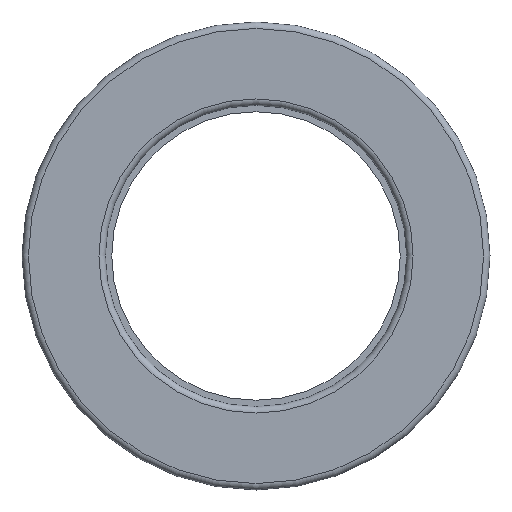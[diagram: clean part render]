
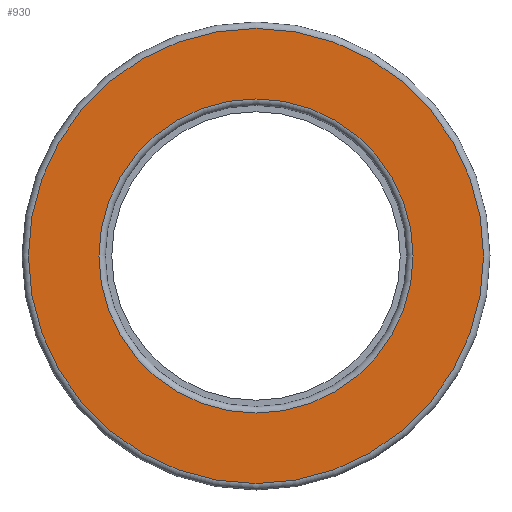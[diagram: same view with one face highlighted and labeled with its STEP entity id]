
A CAD part, front view. The second image highlights one B-rep face of the part: STEP entity #930.
In plain terms, the highlighted planar face has unit normal (0, -1, 0).
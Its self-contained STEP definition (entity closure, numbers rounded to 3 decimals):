
#267=PLANE('',#989);
#313=FACE_BOUND('',#400,.T.);
#346=FACE_OUTER_BOUND('',#399,.T.);
#399=EDGE_LOOP('',(#697));
#400=EDGE_LOOP('',(#698));
#481=CIRCLE('',#988,24.5);
#482=CIRCLE('',#990,35.5);
#499=VERTEX_POINT('',#1347);
#500=VERTEX_POINT('',#1350);
#581=EDGE_CURVE('',#499,#499,#481,.T.);
#582=EDGE_CURVE('',#500,#500,#482,.T.);
#697=ORIENTED_EDGE('',*,*,#582,.F.);
#698=ORIENTED_EDGE('',*,*,#581,.T.);
#930=ADVANCED_FACE('',(#346,#313),#267,.T.);
#988=AXIS2_PLACEMENT_3D('',#1348,#1080,#1081);
#989=AXIS2_PLACEMENT_3D('',#1349,#1082,#1083);
#990=AXIS2_PLACEMENT_3D('',#1351,#1084,#1085);
#1080=DIRECTION('center_axis',(0.,1.,0.));
#1081=DIRECTION('ref_axis',(1.,0.,0.));
#1082=DIRECTION('center_axis',(0.,-1.,0.));
#1083=DIRECTION('ref_axis',(0.,0.,-1.));
#1084=DIRECTION('center_axis',(0.,1.,0.));
#1085=DIRECTION('ref_axis',(1.,0.,0.));
#1347=CARTESIAN_POINT('',(-24.5,-10.,0.));
#1348=CARTESIAN_POINT('Origin',(0.,-10.,0.));
#1349=CARTESIAN_POINT('Origin',(-35.5,-10.,0.));
#1350=CARTESIAN_POINT('',(-35.5,-10.,0.));
#1351=CARTESIAN_POINT('Origin',(0.,-10.,0.));
